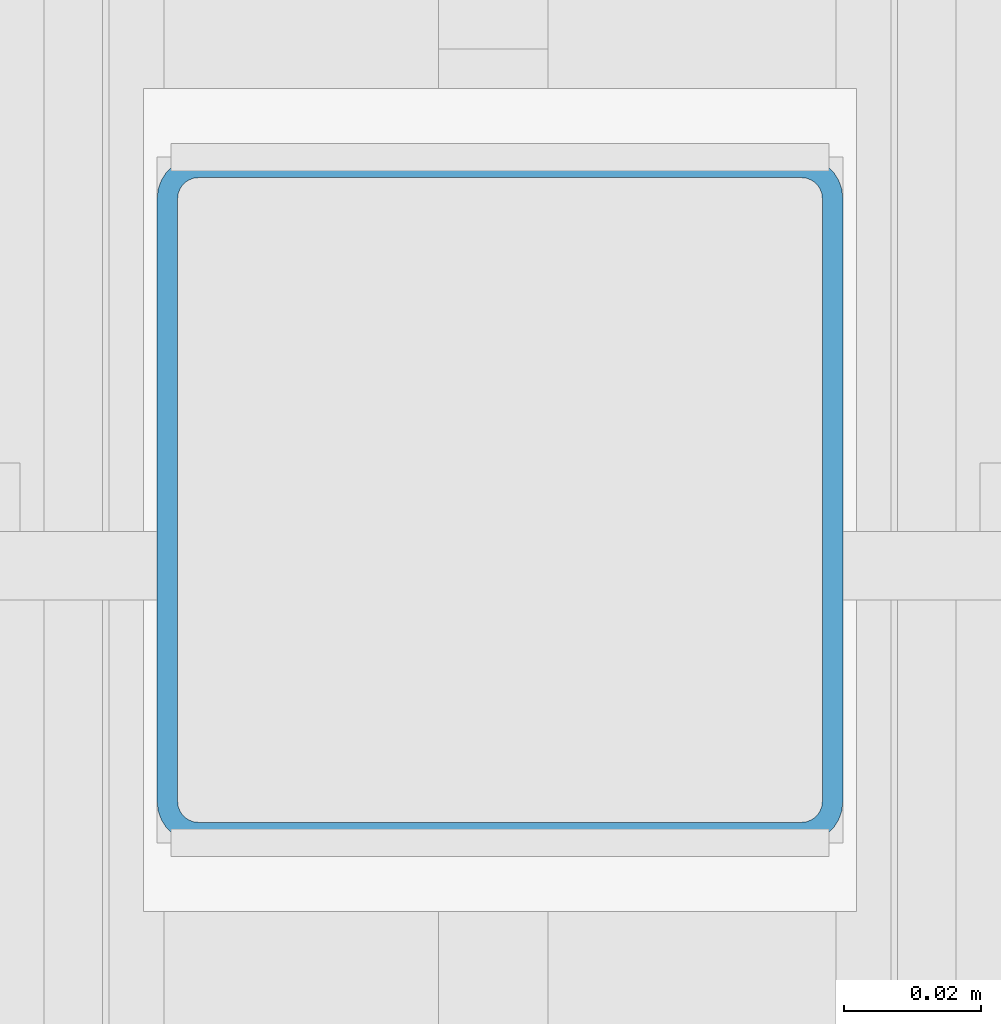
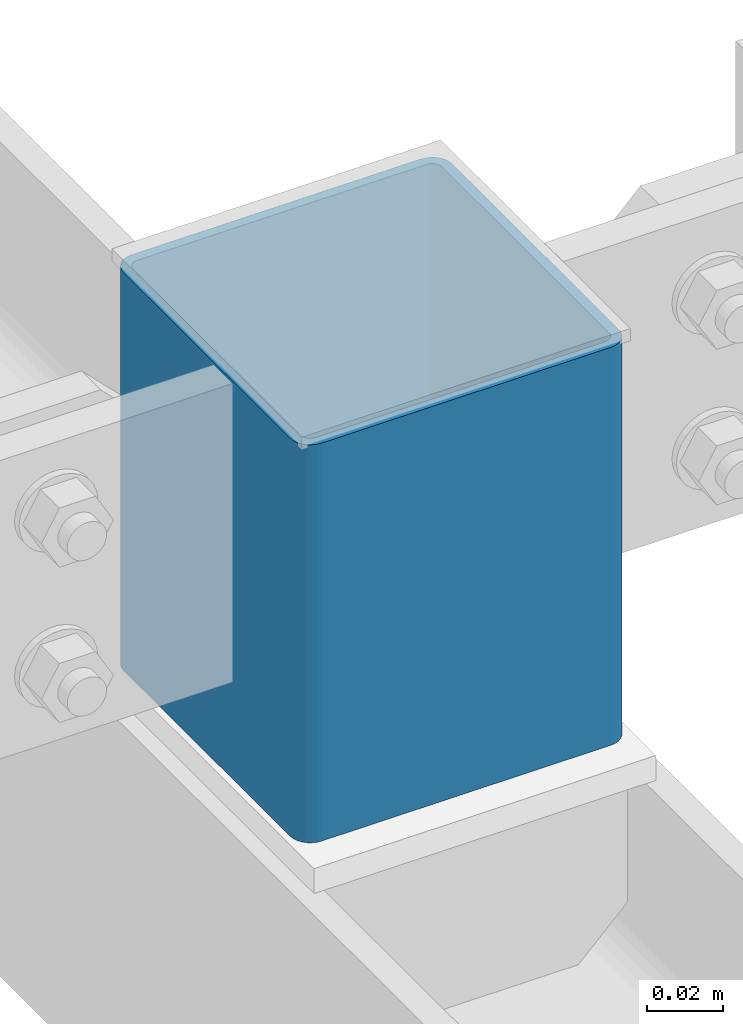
# One storey, part 69 of 271: 1 beam, 1 element without a shape of its own.
"""IFC2X3 building model written with IfcOpenShell, lengths in millimetres."""

from ifc_helpers import new_model, si_unit, frame, origin_with_axes, origin_2d_with_axis, place, context, subcontext, project, spatial, hollow_rectangle, extrude, clip, halfspace, material, type_object, element, aggregate, save


model = new_model("IFC2X3")

# Units and contexts
model_context = context("Model", 3, precision=1e-05, world=origin_with_axes())
body_context = subcontext(model_context, "Body", "Model", "MODEL_VIEW")
ifc_project = project(units=[si_unit("LENGTHUNIT", "METRE", prefix="MILLI"), si_unit("AREAUNIT", "SQUARE_METRE"), si_unit("VOLUMEUNIT", "CUBIC_METRE"), si_unit("MASSUNIT", "GRAM", prefix="KILO"), si_unit("TIMEUNIT", "SECOND"), si_unit("PLANEANGLEUNIT", "RADIAN"), si_unit("SOLIDANGLEUNIT", "STERADIAN"), si_unit("THERMODYNAMICTEMPERATUREUNIT", "DEGREE_CELSIUS"), si_unit("LUMINOUSINTENSITYUNIT", "LUMEN")], contexts=[model_context])

# Site, building, storey
site_placement = place(None, origin_with_axes())
site = spatial("IfcSite", under=ifc_project, at=site_placement, Name="Undefined", CompositionType="ELEMENT")
building_placement = place(site_placement, origin_with_axes())
building = spatial("IfcBuilding", under=site, at=building_placement, Name="Undefined", CompositionType="ELEMENT")
storey_placement = place(building_placement, origin_with_axes())
storey = spatial("IfcBuildingStorey", under=building, at=storey_placement, Name="Undefined", CompositionType="ELEMENT", Elevation=0.0)

# Assembly, beam
assembly_placement = place(storey_placement, origin_with_axes())
assembly = element("IfcElementAssembly", 1, at=assembly_placement, inside=storey, AssemblyPlace="NOTDEFINED", PredefinedType="RIGID_FRAME")
ifc_material = material(Name="STEEL/S355JR")
beam_type = type_object("IfcBeamType", Name="SHS100*3", PredefinedType="NOTDEFINED")
beam_placement = place(assembly_placement, frame((6348.37568736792, 2798.92439872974, 20204.3499999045), z_axis=(0.0, 1.0, 0.0), x_axis=(0.0, 0.0, -1.0)))
beam = element("IfcBeam", 2, at=beam_placement, type_object=beam_type, material=ifc_material, Name="TĘŻNIK", ObjectType="SHS100*3", context=body_context, shape_type="Clipping", body=[
    clip(extrude(hollow_rectangle(XDim=100.0, YDim=100.0, WallThickness=3.0, InnerFilletRadius=3.0, OuterFilletRadius=6.0, at=origin_2d_with_axis()), frame((132.0, 0.0, 0.0), z_axis=(-1.0, 0.0, 1.38777878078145e-17), x_axis=(0.0, -1.0, 0.0)), (0.0, 0.0, 1.0), 132.0), halfspace(frame((4.0, 0.0, -50.0), z_axis=(1.0, 0.0, 0.0), x_axis=(0.0, -1.0, 0.0)), True)),
])
aggregate(assembly, [beam])

save(model, "model.ifc")
